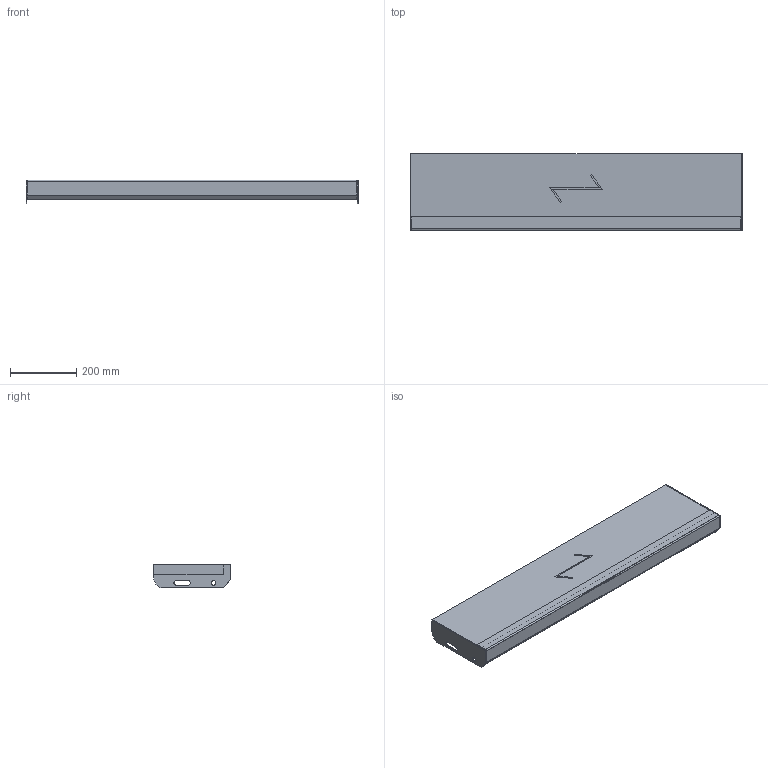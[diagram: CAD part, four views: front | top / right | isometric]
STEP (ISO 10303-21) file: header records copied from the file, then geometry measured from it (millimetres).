
FILE_DESCRIPTION (( 'STEP AP203' ), '1' );
FILE_NAME ('StegTH6-S-nya_steget-1000x230.STEP', '2020-03-04T07:44:19', ( '' ), ( '' ), 'SwSTEP 2.0', 'SolidWorks 2019', '' );
FILE_SCHEMA (( 'CONFIG_CONTROL_DESIGN' ));
Length unit declared in the file: millimetre
Products named in the file (5): SW0000038701; StegTH6-S-nya_steget-1000x230; SW0000039246; SW0000039536; SW0000038938
Assembly tree (5 placements, depth 3):
  StegTH6-S-nya_steget-1000x230
    SW0000039536
      SW0000038938
      SW0000039246
      SW0000038701  x2
Bounding box: 1000 x 230 x 72 mm (x, y, z)
Volume: 6516381.5 mm3; surface area: 750845.9 mm2
Topology: 4 solids, 4 shells, 67 faces, 158 edges, 100 vertices
Faces by surface type: plane 51, cylinder 16
Entity records: 2002 total; most frequent: DIRECTION 261, CARTESIAN_POINT 254, ORIENTED_EDGE 238, EDGE_CURVE 119, LINE 99, VECTOR 99, AXIS2_PLACEMENT_3D 81, VERTEX_POINT 74
